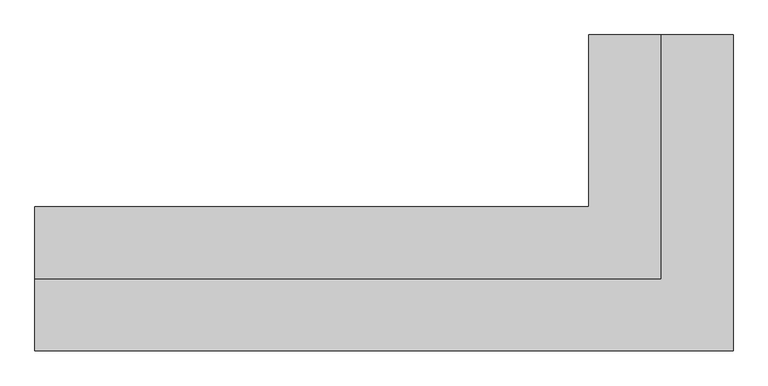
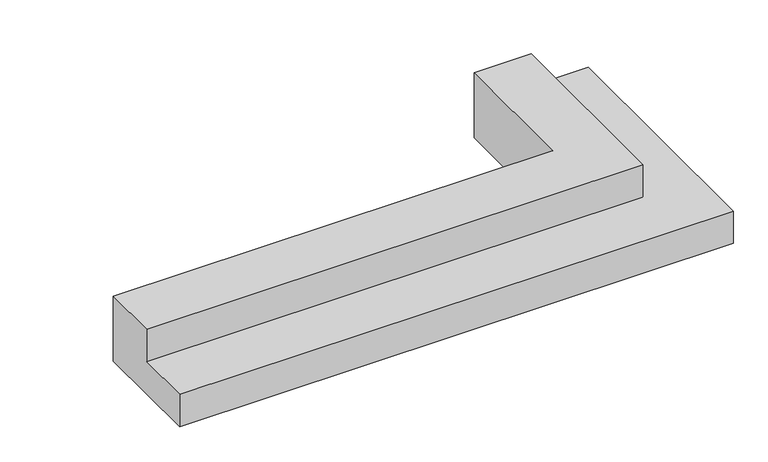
"""IFC4 building model written with IfcOpenShell, lengths in millimetres: proxy geometry, 台阶1 : 台阶."""

from ifc_helpers import new_model, si_unit, origin, place, context, project, spatial, faceted_brep, source, transform, mapped, element, save


def generic_models_ae96d947(model_context):
    return source(origin(), model_context, "Body", "Brep", [
        faceted_brep([(3655.9706096, 1988.7732284, -300.0), (3655.9706096, 1988.7732284, -450.0), (3155.9706096, 1988.7732284, -450.0), (3155.9706096, 1988.7732284, -150.0), (3405.9706096, 1988.7732284, -150.0), (3405.9706096, 1988.7732284, -300.0), (3405.9706096, 1143.7732284, -300.0), (1235.9706096, 1143.7732284, -300.0), (1235.9706096, 893.7732284, -300.0), (3655.9706096, 893.7732284, -300.0), (3405.9706096, 1143.7732284, -150.0), (3155.9706096, 1393.7732284, -150.0), (1235.9706096, 1393.7732284, -150.0), (1235.9706096, 1143.7732284, -150.0), (3155.9706096, 1393.7732284, -450.0), (3655.9706096, 893.7732284, -450.0), (1235.9706096, 893.7732284, -450.0), (1235.9706096, 1393.7732284, -450.0)], [[[0, 1, 2, 3, 4, 5]], [[0, 5, 6, 7, 8, 9]], [[5, 4, 10, 6]], [[4, 3, 11, 12, 13, 10]], [[3, 2, 14, 11]], [[2, 1, 15, 16, 17, 14]], [[1, 0, 9, 15]], [[8, 7, 13, 12, 17, 16]], [[6, 10, 13, 7]], [[11, 14, 17, 12]], [[15, 9, 8, 16]]]),
    ])


if __name__ == "__main__":
    model = new_model("IFC4")
    model_context = context("Model", 3, world=origin())
    ifc_project = project(units=[si_unit("LENGTHUNIT", "METRE", prefix="MILLI")], contexts=[model_context])
    site = spatial("IfcSite", under=ifc_project)
    building = spatial("IfcBuilding", under=site)
    placement = place(None, origin())
    generic_models_shape = generic_models_ae96d947(model_context)
    element("IfcBuildingElementProxy", 1, Name="台阶1 : 台阶", ObjectType="台阶1 : 台阶", at=placement, inside=building, context=model_context, shape_type="MappedRepresentation", body=[
        mapped(generic_models_shape, transform((0.0, 0.0, 0.0), x_axis=(1.0, 0.0, 0.0), y_axis=(0.0, 1.0, 0.0), z_axis=(0.0, 0.0, 1.0))),
    ])
    save(model, "model.ifc")
